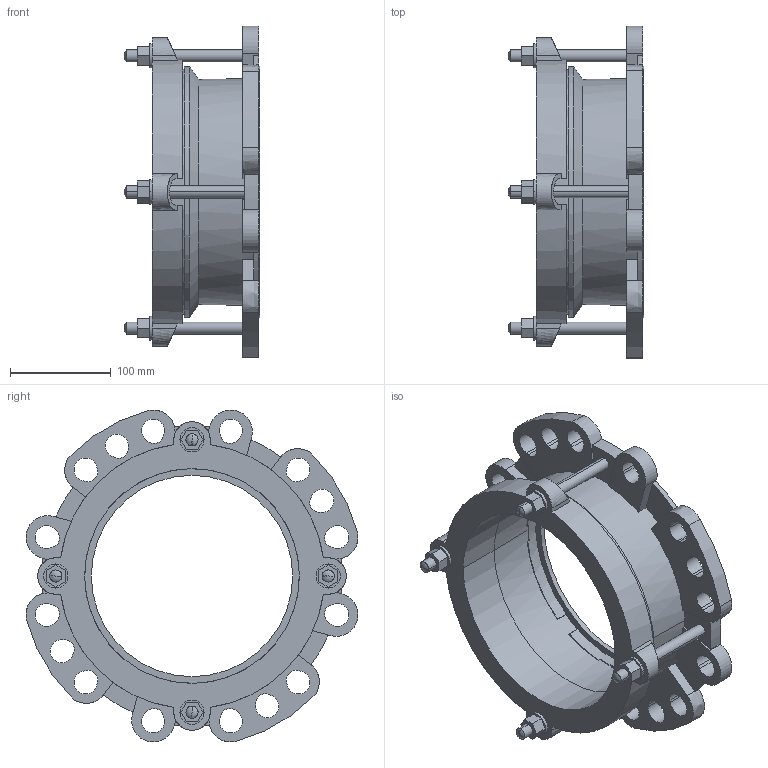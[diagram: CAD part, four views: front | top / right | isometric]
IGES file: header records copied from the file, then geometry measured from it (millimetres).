
Start section:  PTC IGES file: maxidaptor_189-212.igs
Global section: file name: maxidaptor_189-212.igs; native system: Creo Parametric by PTC Inc.; preprocessor: 2016130; author: MReader; organization: Unknown; date: 20181005.113016; units: millimetre
Bounding box: 135 x 329.81 x 329.81 mm (x, y, z)
Surface area: 332126.3 mm2 (no closed solid volume)
Topology: 0 solids, 0 shells, 285 faces, 1580 edges, 1572 vertices
Faces by surface type: bspline 165, revolution 120
